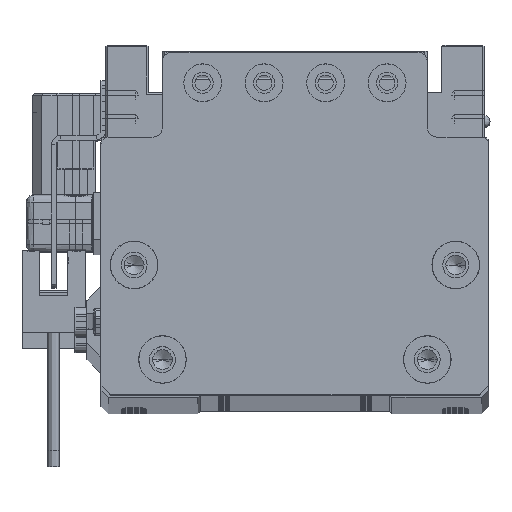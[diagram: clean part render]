
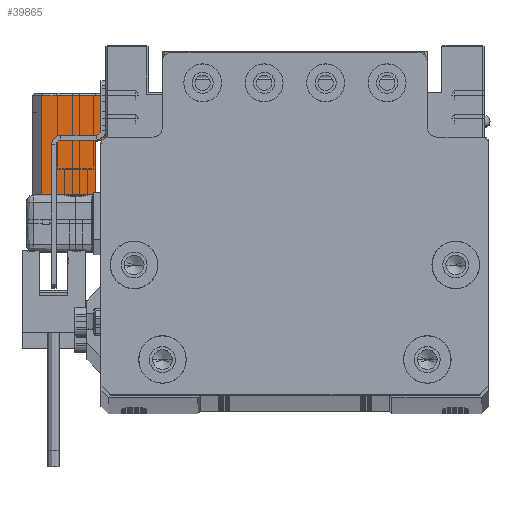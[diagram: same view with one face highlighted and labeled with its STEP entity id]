
A CAD part, top view. The second image highlights one B-rep face of the part: STEP entity #39865.
In plain terms, the highlighted planar face has unit normal (0, 0, 1) as drawn and (1, 0, 0) by its records, which use the part's own axes.
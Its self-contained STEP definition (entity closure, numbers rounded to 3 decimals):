
#260 = CARTESIAN_POINT ( 'NONE',  ( 17., 10.25, -15.5 ) ) ;
#1187 = CARTESIAN_POINT ( 'NONE',  ( 17., -10.75, -13.3 ) ) ;
#2057 = DIRECTION ( 'NONE',  ( 0., 1., 0. ) ) ;
#5002 = ORIENTED_EDGE ( 'NONE', *, *, #42989, .T. ) ;
#5663 = DIRECTION ( 'NONE',  ( 0., 0., 1. ) ) ;
#5724 = CARTESIAN_POINT ( 'NONE',  ( 17., -10.75, -15.5 ) ) ;
#12038 = PLANE ( 'NONE',  #55363 ) ;
#16458 = VECTOR ( 'NONE', #30640, 1000. ) ;
#16789 = LINE ( 'NONE', #33857, #58454 ) ;
#16958 = DIRECTION ( 'NONE',  ( 0., 0., 1. ) ) ;
#19105 = CARTESIAN_POINT ( 'NONE',  ( 17., -10.75, -15.5 ) ) ;
#19309 = CARTESIAN_POINT ( 'NONE',  ( 17., -10.75, -13.3 ) ) ;
#20199 = LINE ( 'NONE', #19105, #46236 ) ;
#20302 = DIRECTION ( 'NONE',  ( 0., -1., 0. ) ) ;
#20666 = CARTESIAN_POINT ( 'NONE',  ( 17., -10.75, -2. ) ) ;
#21201 = EDGE_LOOP ( 'NONE', ( #5002, #38287, #61482, #32343, #41167, #26244 ) ) ;
#23798 = LINE ( 'NONE', #1187, #38817 ) ;
#24696 = LINE ( 'NONE', #47351, #16458 ) ;
#26244 = ORIENTED_EDGE ( 'NONE', *, *, #54746, .F. ) ;
#28160 = EDGE_CURVE ( 'NONE', #51355, #59848, #71213, .T. ) ;
#29869 = VERTEX_POINT ( 'NONE', #64334 ) ;
#30174 = EDGE_CURVE ( 'NONE', #47076, #51355, #34027, .T. ) ;
#30568 = CARTESIAN_POINT ( 'NONE',  ( 17., 10.25, -2. ) ) ;
#30640 = DIRECTION ( 'NONE',  ( 0., 0., 1. ) ) ;
#31587 = CARTESIAN_POINT ( 'NONE',  ( 17., -10.75, -2. ) ) ;
#31741 = CARTESIAN_POINT ( 'NONE',  ( 17., 0.75, -13.3 ) ) ;
#32343 = ORIENTED_EDGE ( 'NONE', *, *, #34973, .F. ) ;
#32934 = VECTOR ( 'NONE', #20302, 1000. ) ;
#33188 = FACE_OUTER_BOUND ( 'NONE', #21201, .T. ) ;
#33857 = CARTESIAN_POINT ( 'NONE',  ( 17., -10.75, -15.5 ) ) ;
#34027 = LINE ( 'NONE', #260, #49627 ) ;
#34288 = DIRECTION ( 'NONE',  ( 0., 0., -1. ) ) ;
#34973 = EDGE_CURVE ( 'NONE', #49409, #59848, #16789, .T. ) ;
#38287 = ORIENTED_EDGE ( 'NONE', *, *, #30174, .T. ) ;
#38817 = VECTOR ( 'NONE', #39410, 1000. ) ;
#39410 = DIRECTION ( 'NONE',  ( 0., -1., 0. ) ) ;
#39865 = ADVANCED_FACE ( 'NONE', ( #33188 ), #12038, .T. ) ;
#41167 = ORIENTED_EDGE ( 'NONE', *, *, #70538, .F. ) ;
#42989 = EDGE_CURVE ( 'NONE', #29869, #47076, #20199, .T. ) ;
#46236 = VECTOR ( 'NONE', #2057, 1000. ) ;
#47076 = VERTEX_POINT ( 'NONE', #65065 ) ;
#47351 = CARTESIAN_POINT ( 'NONE',  ( 17., 0.75, -15.5 ) ) ;
#49409 = VERTEX_POINT ( 'NONE', #19309 ) ;
#49627 = VECTOR ( 'NONE', #16958, 1000. ) ;
#51355 = VERTEX_POINT ( 'NONE', #30568 ) ;
#54746 = EDGE_CURVE ( 'NONE', #29869, #56556, #24696, .T. ) ;
#55363 = AXIS2_PLACEMENT_3D ( 'NONE', #5724, #56204, #34288 ) ;
#56204 = DIRECTION ( 'NONE',  ( 1., 0., 0. ) ) ;
#56556 = VERTEX_POINT ( 'NONE', #31741 ) ;
#58454 = VECTOR ( 'NONE', #5663, 1000. ) ;
#59848 = VERTEX_POINT ( 'NONE', #31587 ) ;
#61482 = ORIENTED_EDGE ( 'NONE', *, *, #28160, .T. ) ;
#64334 = CARTESIAN_POINT ( 'NONE',  ( 17., 0.75, -15.5 ) ) ;
#65065 = CARTESIAN_POINT ( 'NONE',  ( 17., 10.25, -15.5 ) ) ;
#70538 = EDGE_CURVE ( 'NONE', #56556, #49409, #23798, .T. ) ;
#71213 = LINE ( 'NONE', #20666, #32934 ) ;
